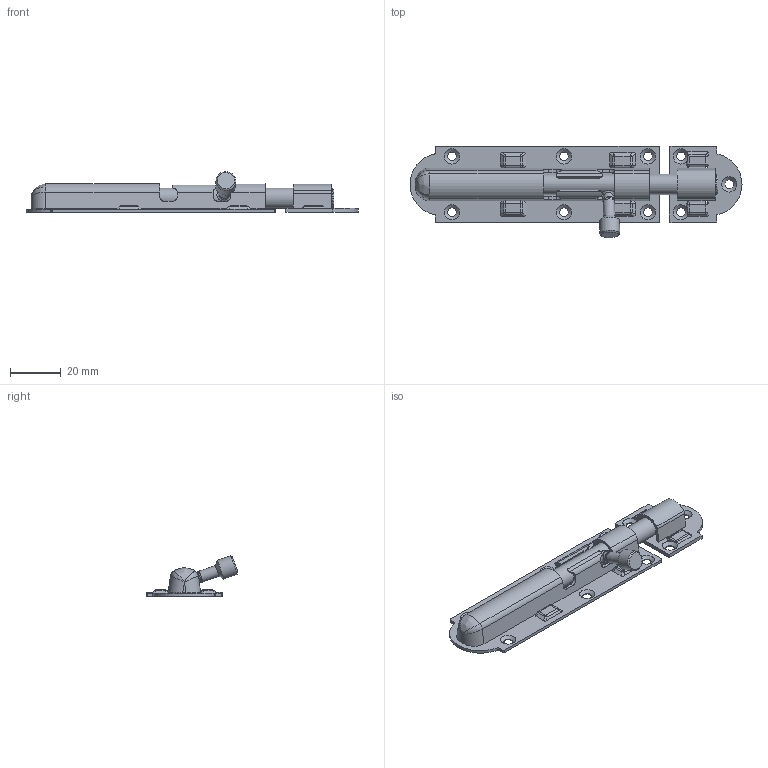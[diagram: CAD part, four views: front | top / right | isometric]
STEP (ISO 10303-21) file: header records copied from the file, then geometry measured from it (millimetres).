
FILE_DESCRIPTION(/* description */ (''),/* implementation_level */ '2;1');
FILE_NAME(/* name */ '\\NAS\db20\ODS3-5S\DR_ODS3-5S.stp',/* time_stamp */ '2017-09-01T11:06:13+09:00',/* author */ ('user'),/* organization */ (''),/* preprocessor_version */ 'ST-DEVELOPER v15.6',/* originating_system */ 'Autodesk Inventor 2015',/* authorisation */ '');
FILE_SCHEMA (('AUTOMOTIVE_DESIGN { 1 0 10303 214 3 1 1 }'));
Length unit declared in the file: millimetre
Products named in the file (4): DR_ODS3-5-BR; DR_ODS3-5-C; DR_ODS3-5-P; DR_ODS3-5S
Bounding box: 130.49 x 36.01 x 15.94 mm (x, y, z)
Volume: 11932.8 mm3; surface area: 15749.2 mm2
Topology: 5 solids, 5 shells, 363 faces, 957 edges, 596 vertices
Faces by surface type: plane 165, cylinder 138, sphere 23, bspline 22, cone 13, torus 2
Full cylindrical faces by diameter (mm): 3.5 x9, 4 x1, 4.5 x1, 7.8 x1, 8 x1
Entity records: 11960 total; most frequent: CARTESIAN_POINT 3060, DIRECTION 1827, ORIENTED_EDGE 1818, EDGE_CURVE 909, AXIS2_PLACEMENT_3D 636, VERTEX_POINT 581, LINE 555, VECTOR 555
